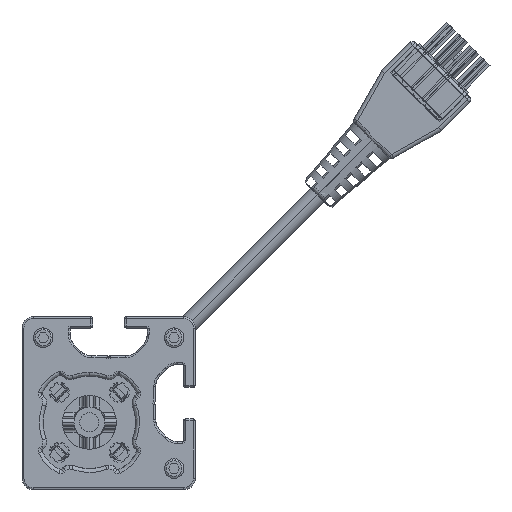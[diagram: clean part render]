
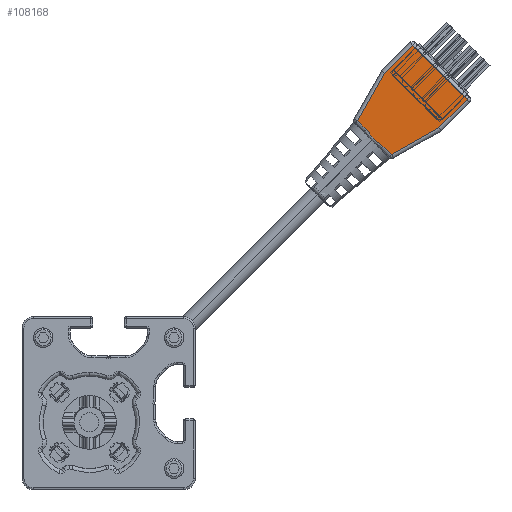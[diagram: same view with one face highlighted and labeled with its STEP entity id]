
A CAD part, front view. The second image highlights one B-rep face of the part: STEP entity #108168.
In plain terms, the highlighted planar face has unit normal (0, -1, 0) as drawn and (-1, 0, 0) by its records, which use the part's own axes.
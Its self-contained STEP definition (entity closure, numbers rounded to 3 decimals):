
#120 = CARTESIAN_POINT ( 'NONE',  ( -7., 1.017, 20.744 ) ) ;
#1454 = CARTESIAN_POINT ( 'NONE',  ( -7., 2.57, 20.979 ) ) ;
#2130 = CARTESIAN_POINT ( 'NONE',  ( -7., -0.528, 20.683 ) ) ;
#2806 = CARTESIAN_POINT ( 'NONE',  ( -7., -1.297, 20.791 ) ) ;
#4707 = CARTESIAN_POINT ( 'NONE',  ( -7., 6.239, 21. ) ) ;
#4924 = CARTESIAN_POINT ( 'NONE',  ( -7., 10., 0. ) ) ;
#9088 = EDGE_CURVE ( 'NONE', #21367, #40193, #9245, .T. ) ;
#9245 = B_SPLINE_CURVE_WITH_KNOTS ( 'NONE', 3,
 ( #117511, #84560, #96210, #10476, #64536, #2806, #23473, #2130, #33681, #22137, #33021, #120, #104480, #85226, #42628, #1454, #94168, #106508 ),
 .UNSPECIFIED., .F., .F.,
 ( 4, 2, 2, 2, 2, 2, 2, 2, 4 ),
 ( 0., 0.125, 0.25, 0.375, 0.5, 0.625, 0.75, 0.875, 1. ),
 .UNSPECIFIED. ) ;
#9724 = DIRECTION ( 'NONE',  ( 0., 0.266, -0.964 ) ) ;
#10476 = CARTESIAN_POINT ( 'NONE',  ( -7., -2.065, 20.918 ) ) ;
#13218 = CARTESIAN_POINT ( 'NONE',  ( -7., -10., 34.635 ) ) ;
#16893 = PLANE ( 'NONE',  #28061 ) ;
#16912 = ORIENTED_EDGE ( 'NONE', *, *, #116814, .F. ) ;
#20235 = ORIENTED_EDGE ( 'NONE', *, *, #52449, .F. ) ;
#21367 = VERTEX_POINT ( 'NONE', #73611 ) ;
#22137 = CARTESIAN_POINT ( 'NONE',  ( -7., 0.243, 20.661 ) ) ;
#23036 = VECTOR ( 'NONE', #67283, 1000. ) ;
#23473 = CARTESIAN_POINT ( 'NONE',  ( -7., -1.041, 20.748 ) ) ;
#25125 = DIRECTION ( 'NONE',  ( 1., 0., 0. ) ) ;
#26438 = DIRECTION ( 'NONE',  ( 0., 0., -1. ) ) ;
#26862 = EDGE_CURVE ( 'NONE', #109015, #119199, #103075, .T. ) ;
#26871 = LINE ( 'NONE', #4924, #23036 ) ;
#27493 = CARTESIAN_POINT ( 'NONE',  ( -7., -6.239, 21. ) ) ;
#27548 = EDGE_CURVE ( 'NONE', #40193, #66041, #58947, .T. ) ;
#28061 = AXIS2_PLACEMENT_3D ( 'NONE', #77200, #25125, #119887 ) ;
#33021 = CARTESIAN_POINT ( 'NONE',  ( -7., 0.501, 20.68 ) ) ;
#33681 = CARTESIAN_POINT ( 'NONE',  ( -7., -0.271, 20.662 ) ) ;
#37995 = VERTEX_POINT ( 'NONE', #51512 ) ;
#39058 = ORIENTED_EDGE ( 'NONE', *, *, #106600, .F. ) ;
#40193 = VERTEX_POINT ( 'NONE', #70822 ) ;
#42222 = EDGE_CURVE ( 'NONE', #127479, #109015, #54790, .T. ) ;
#42628 = CARTESIAN_POINT ( 'NONE',  ( -7., 2.051, 20.916 ) ) ;
#49268 = ORIENTED_EDGE ( 'NONE', *, *, #42222, .F. ) ;
#51512 = CARTESIAN_POINT ( 'NONE',  ( -7., 10., 34.635 ) ) ;
#52449 = EDGE_CURVE ( 'NONE', #66041, #37995, #109035, .T. ) ;
#54790 = LINE ( 'NONE', #76056, #117718 ) ;
#54864 = VECTOR ( 'NONE', #100952, 1000. ) ;
#58947 = LINE ( 'NONE', #120914, #54864 ) ;
#59482 = DIRECTION ( 'NONE',  ( 0., 1., 0. ) ) ;
#61960 = ORIENTED_EDGE ( 'NONE', *, *, #26862, .F. ) ;
#64536 = CARTESIAN_POINT ( 'NONE',  ( -7., -1.809, 20.876 ) ) ;
#65293 = EDGE_LOOP ( 'NONE', ( #65838, #132680, #105518, #16912, #61960, #49268, #39058, #20235 ) ) ;
#65838 = ORIENTED_EDGE ( 'NONE', *, *, #27548, .F. ) ;
#66041 = VERTEX_POINT ( 'NONE', #132169 ) ;
#67283 = DIRECTION ( 'NONE',  ( 0., 0., 1. ) ) ;
#70254 = VECTOR ( 'NONE', #26438, 1000. ) ;
#70822 = CARTESIAN_POINT ( 'NONE',  ( -7., 3.092, 21. ) ) ;
#73611 = CARTESIAN_POINT ( 'NONE',  ( -7., -3.092, 21. ) ) ;
#73673 = DIRECTION ( 'NONE',  ( 0., 0.266, 0.964 ) ) ;
#76056 = CARTESIAN_POINT ( 'NONE',  ( -7., 0., 45. ) ) ;
#77200 = CARTESIAN_POINT ( 'NONE',  ( -7., 0., 0. ) ) ;
#83452 = VECTOR ( 'NONE', #9724, 1000. ) ;
#84560 = CARTESIAN_POINT ( 'NONE',  ( -7., -2.835, 21. ) ) ;
#85226 = CARTESIAN_POINT ( 'NONE',  ( -7., 1.792, 20.874 ) ) ;
#86481 = DIRECTION ( 'NONE',  ( 0., -1., 0. ) ) ;
#88124 = CARTESIAN_POINT ( 'NONE',  ( -7., -10., 45. ) ) ;
#88269 = FACE_OUTER_BOUND ( 'NONE', #65293, .T. ) ;
#93412 = CARTESIAN_POINT ( 'NONE',  ( -7., 10., 45. ) ) ;
#94008 = EDGE_CURVE ( 'NONE', #111819, #21367, #132384, .T. ) ;
#94168 = CARTESIAN_POINT ( 'NONE',  ( -7., 2.831, 21. ) ) ;
#96210 = CARTESIAN_POINT ( 'NONE',  ( -7., -2.578, 20.98 ) ) ;
#100178 = VECTOR ( 'NONE', #59482, 1000. ) ;
#100952 = DIRECTION ( 'NONE',  ( 0., 1., 0. ) ) ;
#103075 = LINE ( 'NONE', #114761, #70254 ) ;
#103744 = CARTESIAN_POINT ( 'NONE',  ( -7., -10., 34.635 ) ) ;
#104480 = CARTESIAN_POINT ( 'NONE',  ( -7., 1.276, 20.788 ) ) ;
#105518 = ORIENTED_EDGE ( 'NONE', *, *, #94008, .F. ) ;
#106508 = CARTESIAN_POINT ( 'NONE',  ( -7., 3.092, 21. ) ) ;
#106600 = EDGE_CURVE ( 'NONE', #37995, #127479, #26871, .T. ) ;
#108168 = ADVANCED_FACE ( 'NONE', ( #88269 ), #16893, .F. ) ;
#109015 = VERTEX_POINT ( 'NONE', #88124 ) ;
#109035 = LINE ( 'NONE', #4707, #119627 ) ;
#111819 = VERTEX_POINT ( 'NONE', #27493 ) ;
#112683 = LINE ( 'NONE', #103744, #83452 ) ;
#114761 = CARTESIAN_POINT ( 'NONE',  ( -7., -10., 0. ) ) ;
#116814 = EDGE_CURVE ( 'NONE', #119199, #111819, #112683, .T. ) ;
#117511 = CARTESIAN_POINT ( 'NONE',  ( -7., -3.092, 21. ) ) ;
#117718 = VECTOR ( 'NONE', #86481, 1000. ) ;
#119199 = VERTEX_POINT ( 'NONE', #13218 ) ;
#119627 = VECTOR ( 'NONE', #73673, 1000. ) ;
#119887 = DIRECTION ( 'NONE',  ( 0., 0., -1. ) ) ;
#120772 = CARTESIAN_POINT ( 'NONE',  ( -7., 0., 21. ) ) ;
#120914 = CARTESIAN_POINT ( 'NONE',  ( -7., 0., 21. ) ) ;
#127479 = VERTEX_POINT ( 'NONE', #93412 ) ;
#132169 = CARTESIAN_POINT ( 'NONE',  ( -7., 6.239, 21. ) ) ;
#132384 = LINE ( 'NONE', #120772, #100178 ) ;
#132680 = ORIENTED_EDGE ( 'NONE', *, *, #9088, .F. ) ;
